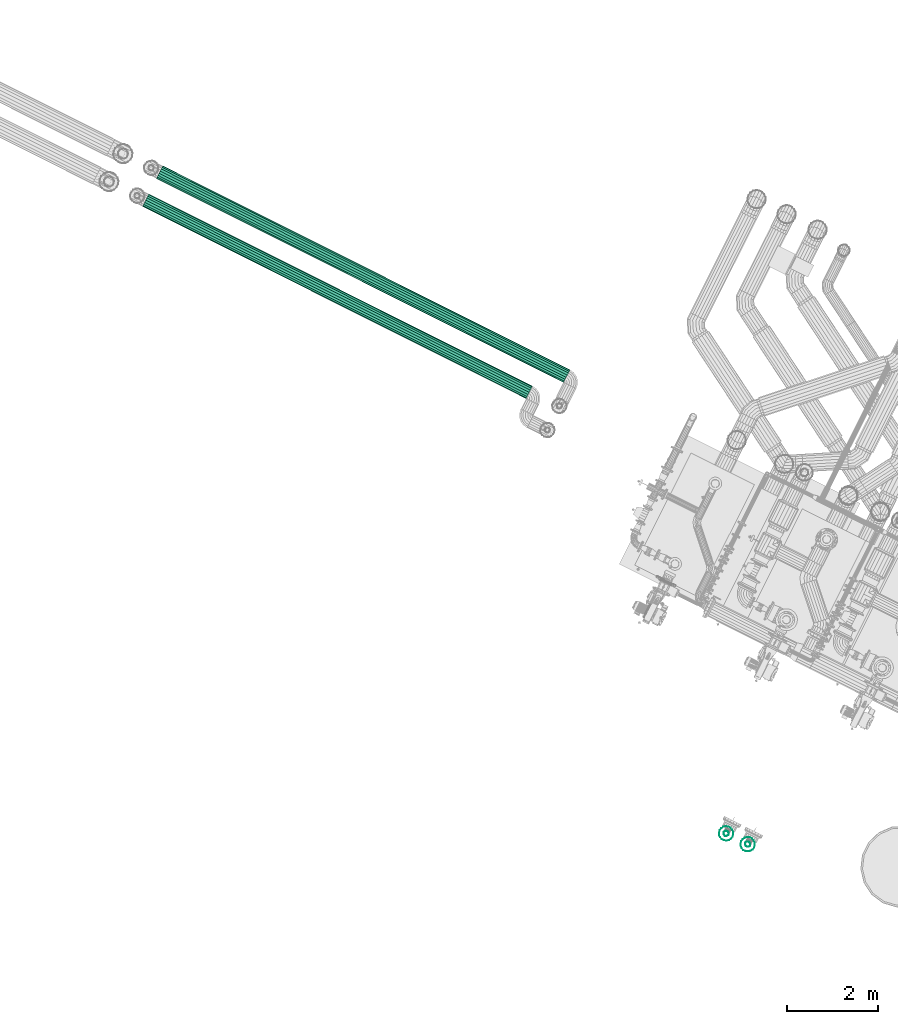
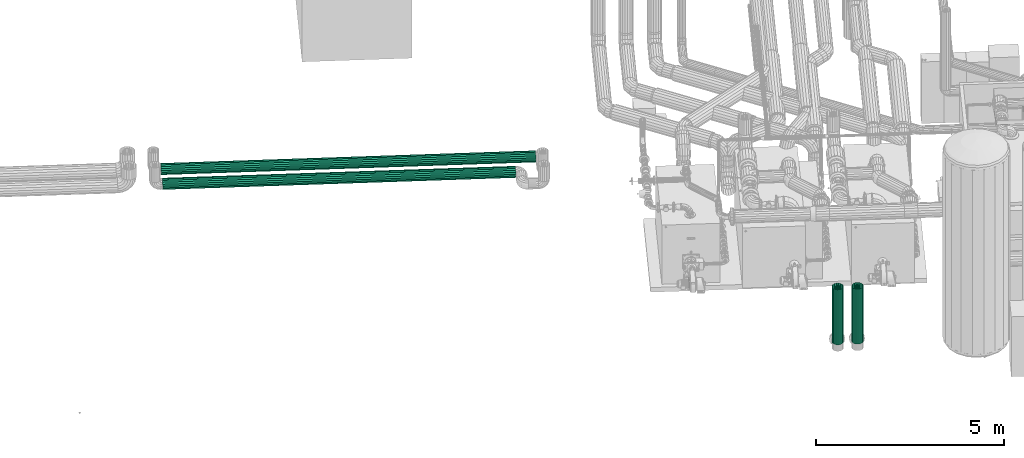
# One storey, part 4 of 206: 4 flow segments.
"""IFC2X3 building model written with IfcOpenShell, lengths in metres."""

from ifc_helpers import new_model, si_unit, derived_unit, direction, frame, origin, place, context, subcontext, project, spatial, face_set, surface_model, source, transform, mapped, material, type_object, type_shapes, element, save


model = new_model("IFC2X3")

# Units and contexts
model_context = context("Model", 3, precision=5.2338327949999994e-05, world=origin(), true_north=direction((0.0, 1.0)))
body_context = subcontext(model_context, "Body", "Model", "MODEL_VIEW")
ifc_project = project(units=[si_unit("LENGTHUNIT", "METRE"), si_unit("AREAUNIT", "SQUARE_METRE"), si_unit("VOLUMEUNIT", "CUBIC_METRE"), si_unit("MASSUNIT", "GRAM", prefix="KILO"), si_unit("PLANEANGLEUNIT", "RADIAN"), derived_unit("THERMALTRANSMITTANCEUNIT", [(si_unit("MASSUNIT", "GRAM", prefix="KILO"), 1), (si_unit("THERMODYNAMICTEMPERATUREUNIT", "KELVIN"), -1), (si_unit("TIMEUNIT", "SECOND"), -3)])], contexts=[model_context])

# Site, building, storey
site_placement = place(None, frame((0.0, 0.0, 0.0), z_axis=(0.0, 0.0, 1.0), x_axis=(0.8939966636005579, -0.4480736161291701, 0.0)))
site = spatial("IfcSite", under=ifc_project, at=site_placement, Name="Default", CompositionType="ELEMENT")
building_placement = place(site_placement, origin())
building = spatial("IfcBuilding", under=site, at=building_placement, CompositionType="ELEMENT")
storey_placement = place(building_placement, origin())
storey = spatial("IfcBuildingStorey", under=building, at=storey_placement, Name="Erdgeschoss", CompositionType="ELEMENT", Elevation=0.0)

# Flow segments
ifc_material_1 = material(Name="IfcSurfaceStyle #1741")
distribution_element_type_1 = type_object("IfcDistributionElementType", Name="Stahlrohr nach DIN 2448 292285:Stahlrohr nach DIN 2448 292285", material=ifc_material_1)
shared_shape_1 = source(origin(), body_context, "Body", "SurfaceModel", [
    surface_model("IfcFaceBasedSurfaceModel", [(17.474232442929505, 7.9550583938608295, 2.3177984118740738), (17.474232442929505, 7.958504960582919, 2.337344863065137), (7.4852324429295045, 7.958504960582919, 2.3373448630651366), (7.4852324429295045, 7.9550583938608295, 2.3177984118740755), (17.474232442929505, 7.968428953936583, 2.354533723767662), (7.4852324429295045, 7.968428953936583, 2.3545337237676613), (17.474232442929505, 7.9836333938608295, 2.3672917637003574), (7.4852324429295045, 7.983633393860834, 2.3672917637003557), (17.474232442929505, 8.002284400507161, 2.374080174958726), (7.4852324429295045, 8.00228440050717, 2.374080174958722), (17.474232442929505, 8.022132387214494, 2.374080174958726), (7.4852324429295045, 8.0221323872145, 2.374080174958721), (17.474232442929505, 8.040783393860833, 2.3672917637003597), (7.4852324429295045, 8.040783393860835, 2.367291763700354), (17.474232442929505, 8.05598783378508, 2.3545337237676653), (7.4852324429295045, 8.055987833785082, 2.3545337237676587), (17.474232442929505, 8.065911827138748, 2.337344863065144), (7.4852324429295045, 8.065911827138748, 2.3373448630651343), (17.474232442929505, 8.069358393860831, 2.3177984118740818), (7.4852324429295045, 8.06935839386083, 2.317798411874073), (17.474232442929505, 8.065911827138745, 2.2982519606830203), (7.4852324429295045, 8.065911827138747, 2.2982519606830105), (17.474232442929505, 8.055987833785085, 2.281063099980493), (7.4852324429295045, 8.055987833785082, 2.2810630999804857), (17.474232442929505, 8.040783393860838, 2.2683050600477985), (7.4852324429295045, 8.040783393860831, 2.2683050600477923), (17.474232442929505, 8.022132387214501, 2.2615166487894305), (7.4852324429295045, 8.022132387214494, 2.261516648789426), (17.474232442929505, 8.002284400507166, 2.26151664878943), (7.4852324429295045, 8.002284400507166, 2.2615166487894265), (17.474232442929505, 7.983633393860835, 2.2683050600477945), (7.4852324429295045, 7.98363339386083, 2.268305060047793), (17.474232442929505, 7.968428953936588, 2.2810630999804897), (7.4852324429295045, 7.968428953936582, 2.281063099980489), (17.474232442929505, 7.958504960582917, 2.2982519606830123), (7.4852324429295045, 7.958504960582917, 2.2982519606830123), (17.474232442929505, 7.855058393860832, 2.317798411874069), (17.474232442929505, 7.864535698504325, 2.371546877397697), (7.4852324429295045, 7.864535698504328, 2.3715468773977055), (7.4852324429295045, 7.855058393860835, 2.317798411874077), (17.474232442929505, 7.89182450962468, 2.41881248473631), (7.4852324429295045, 7.891824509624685, 2.4188124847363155), (17.474232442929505, 7.933633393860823, 2.4538943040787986), (7.4852324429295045, 7.933633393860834, 2.4538943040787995), (17.474232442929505, 7.984919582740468, 2.472560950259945), (7.4852324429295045, 7.984919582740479, 2.472560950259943), (17.474232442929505, 8.039497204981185, 2.4725609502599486), (7.4852324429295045, 8.039497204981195, 2.4725609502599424), (17.474232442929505, 8.090783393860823, 2.453894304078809), (7.4852324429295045, 8.090783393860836, 2.4538943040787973), (17.474232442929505, 8.132592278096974, 2.4188124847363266), (7.4852324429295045, 8.132592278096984, 2.4188124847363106), (17.474232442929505, 8.159881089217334, 2.371546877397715), (7.4852324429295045, 8.159881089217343, 2.3715468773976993), (17.474232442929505, 8.169358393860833, 2.317798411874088), (7.4852324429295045, 8.169358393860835, 2.3177984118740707), (17.474232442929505, 8.159881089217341, 2.264049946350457), (7.4852324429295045, 8.159881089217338, 2.2640499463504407), (17.474232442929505, 8.13259227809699, 2.2167843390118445), (7.4852324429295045, 8.132592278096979, 2.21678433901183), (17.474232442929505, 8.090783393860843, 2.181702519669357), (7.4852324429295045, 8.09078339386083, 2.1817025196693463), (17.474232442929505, 8.0394972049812, 2.1630358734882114), (7.4852324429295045, 8.039497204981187, 2.163035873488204), (17.474232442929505, 7.984919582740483, 2.1630358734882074), (7.4852324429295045, 7.984919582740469, 2.1630358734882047), (17.474232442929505, 7.93363339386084, 2.181702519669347), (7.4852324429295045, 7.933633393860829, 2.1817025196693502), (17.474232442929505, 7.891824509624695, 2.2167843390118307), (7.4852324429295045, 7.891824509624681, 2.216784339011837), (17.474232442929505, 7.864535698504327, 2.2640499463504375), (7.4852324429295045, 7.864535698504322, 2.2640499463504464)], [face_set([[[0, 1, 2, 3]], [[1, 4, 5, 2]], [[4, 6, 7, 5]], [[6, 8, 9, 7]], [[8, 10, 11, 9]], [[10, 12, 13, 11]], [[12, 14, 15, 13]], [[14, 16, 17, 15]], [[16, 18, 19, 17]], [[18, 20, 21, 19]], [[20, 22, 23, 21]], [[22, 24, 25, 23]], [[24, 26, 27, 25]], [[26, 28, 29, 27]], [[28, 30, 31, 29]], [[30, 32, 33, 31]], [[32, 34, 35, 33]], [[34, 0, 3, 35]], [[36, 37, 38, 39]], [[37, 40, 41, 38]], [[40, 42, 43, 41]], [[42, 44, 45, 43]], [[44, 46, 47, 45]], [[46, 48, 49, 47]], [[48, 50, 51, 49]], [[50, 52, 53, 51]], [[52, 54, 55, 53]], [[54, 56, 57, 55]], [[56, 58, 59, 57]], [[58, 60, 61, 59]], [[60, 62, 63, 61]], [[62, 64, 65, 63]], [[64, 66, 67, 65]], [[66, 68, 69, 67]], [[68, 70, 71, 69]], [[70, 36, 39, 71]]])]),
])
type_shapes(distribution_element_type_1, [shared_shape_1])
flow_segment_1_placement = place(storey_placement, origin())
element("IfcFlowSegment", 1, at=flow_segment_1_placement, inside=storey, type_object=distribution_element_type_1, material=ifc_material_1, Name="Stahlrohr nach DIN 2448", ObjectType="Stahlrohr nach DIN 2448", context=body_context, shape_type="MappedRepresentation", body=[
    mapped(shared_shape_1, transform((0.0, 0.0, 0.0), scale=1.0)),
])
ifc_material_2 = material(Name="IfcSurfaceStyle #9317")
distribution_element_type_2 = type_object("IfcDistributionElementType", Name="Stahlrohr nach DIN 2448 292664:Stahlrohr nach DIN 2448 292664", material=ifc_material_2)
shared_shape_2 = source(origin(), body_context, "Body", "SurfaceModel", [
    surface_model("IfcFaceBasedSurfaceModel", [(7.485608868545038, 7.3272083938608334, 2.260648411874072), (7.485608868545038, 7.346754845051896, 2.264094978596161), (16.90060886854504, 7.346754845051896, 2.264094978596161), (16.90060886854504, 7.3272083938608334, 2.260648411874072), (7.485608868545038, 7.36394370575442, 2.2740189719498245), (16.90060886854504, 7.363943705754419, 2.2740189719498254), (7.485608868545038, 7.376701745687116, 2.2892234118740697), (16.90060886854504, 7.3767017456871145, 2.2892234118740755), (7.485608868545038, 7.383490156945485, 2.3078744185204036), (16.90060886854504, 7.38349015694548, 2.3078744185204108), (7.485608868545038, 7.383490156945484, 2.3277224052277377), (16.90060886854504, 7.383490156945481, 2.327722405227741), (7.485608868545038, 7.376701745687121, 2.346373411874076), (16.90060886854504, 7.376701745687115, 2.3463734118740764), (7.485608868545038, 7.3639437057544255, 2.361577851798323), (16.90060886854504, 7.363943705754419, 2.3615778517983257), (7.485608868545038, 7.346754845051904, 2.3715018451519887), (16.90060886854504, 7.346754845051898, 2.371501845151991), (7.485608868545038, 7.327208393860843, 2.374948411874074), (16.90060886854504, 7.327208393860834, 2.374948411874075), (7.485608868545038, 7.307661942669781, 2.3715018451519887), (16.90060886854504, 7.307661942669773, 2.3715018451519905), (7.485608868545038, 7.290473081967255, 2.361577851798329), (16.90060886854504, 7.290473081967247, 2.3615778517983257), (7.485608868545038, 7.2777150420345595, 2.346373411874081), (16.90060886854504, 7.277715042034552, 2.346373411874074), (7.485608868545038, 7.270926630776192, 2.3277224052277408), (16.90060886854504, 7.270926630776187, 2.32772240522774), (7.485608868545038, 7.270926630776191, 2.307874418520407), (16.90060886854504, 7.270926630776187, 2.3078744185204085), (7.485608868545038, 7.277715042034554, 2.2892234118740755), (16.90060886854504, 7.2777150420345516, 2.2892234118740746), (7.485608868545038, 7.29047308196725, 2.2740189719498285), (16.90060886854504, 7.290473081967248, 2.2740189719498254), (7.485608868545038, 7.307661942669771, 2.2640949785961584), (16.90060886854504, 7.30766194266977, 2.2640949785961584), (7.485608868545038, 7.327208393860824, 2.160648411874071), (7.485608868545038, 7.380956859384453, 2.170125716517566), (16.90060886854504, 7.380956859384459, 2.1701257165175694), (16.90060886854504, 7.327208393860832, 2.1606484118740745), (7.485608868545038, 7.428222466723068, 2.1974145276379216), (16.90060886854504, 7.4282224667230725, 2.1974145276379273), (7.485608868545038, 7.463304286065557, 2.2392234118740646), (16.90060886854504, 7.463304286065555, 2.2392234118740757), (7.485608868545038, 7.481970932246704, 2.29050960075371), (16.90060886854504, 7.4819709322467, 2.290509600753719), (7.485608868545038, 7.481970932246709, 2.3450872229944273), (16.90060886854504, 7.4819709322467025, 2.3450872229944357), (7.485608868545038, 7.4633042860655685, 2.3963734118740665), (16.90060886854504, 7.46330428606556, 2.396373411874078), (7.485608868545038, 7.4282224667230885, 2.438182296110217), (16.90060886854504, 7.428222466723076, 2.438182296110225), (7.485608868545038, 7.380956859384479, 2.4654711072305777), (16.90060886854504, 7.380956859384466, 2.4654711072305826), (7.485608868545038, 7.327208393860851, 2.474948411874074), (16.90060886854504, 7.327208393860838, 2.4749484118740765), (7.485608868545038, 7.27345992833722, 2.4654711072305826), (16.90060886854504, 7.273459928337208, 2.4654711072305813), (7.485608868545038, 7.226194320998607, 2.4381822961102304), (16.90060886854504, 7.226194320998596, 2.438182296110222), (7.485608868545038, 7.19111250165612, 2.3963734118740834), (16.90060886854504, 7.19111250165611, 2.396373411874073), (7.485608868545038, 7.1724458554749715, 2.345087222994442), (16.90060886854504, 7.172445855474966, 2.3450872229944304), (7.485608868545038, 7.172445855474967, 2.2905096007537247), (16.90060886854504, 7.172445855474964, 2.2905096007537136), (7.485608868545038, 7.191112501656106, 2.2392234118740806), (16.90060886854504, 7.191112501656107, 2.2392234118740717), (7.485608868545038, 7.226194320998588, 2.1974145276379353), (16.90060886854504, 7.226194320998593, 2.197414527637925), (7.485608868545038, 7.273459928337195, 2.170125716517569), (16.90060886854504, 7.273459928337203, 2.170125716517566)], [face_set([[[0, 1, 2, 3]], [[1, 4, 5, 2]], [[4, 6, 7, 5]], [[6, 8, 9, 7]], [[8, 10, 11, 9]], [[10, 12, 13, 11]], [[12, 14, 15, 13]], [[14, 16, 17, 15]], [[16, 18, 19, 17]], [[18, 20, 21, 19]], [[20, 22, 23, 21]], [[22, 24, 25, 23]], [[24, 26, 27, 25]], [[26, 28, 29, 27]], [[28, 30, 31, 29]], [[30, 32, 33, 31]], [[32, 34, 35, 33]], [[34, 0, 3, 35]], [[36, 37, 38, 39]], [[37, 40, 41, 38]], [[40, 42, 43, 41]], [[42, 44, 45, 43]], [[44, 46, 47, 45]], [[46, 48, 49, 47]], [[48, 50, 51, 49]], [[50, 52, 53, 51]], [[52, 54, 55, 53]], [[54, 56, 57, 55]], [[56, 58, 59, 57]], [[58, 60, 61, 59]], [[60, 62, 63, 61]], [[62, 64, 65, 63]], [[64, 66, 67, 65]], [[66, 68, 69, 67]], [[68, 70, 71, 69]], [[70, 36, 39, 71]]])]),
])
type_shapes(distribution_element_type_2, [shared_shape_2])
flow_segment_2_placement = place(storey_placement, origin())
element("IfcFlowSegment", 2, at=flow_segment_2_placement, inside=storey, type_object=distribution_element_type_2, material=ifc_material_2, Name="Stahlrohr nach DIN 2448", ObjectType="Stahlrohr nach DIN 2448", context=body_context, shape_type="MappedRepresentation", body=[
    mapped(shared_shape_2, transform((0.0, 0.0, 0.0), scale=1.0)),
])
distribution_element_type_3 = type_object("IfcDistributionElementType", Name="Stahlrohr nach DIN 2448 305057:Stahlrohr nach DIN 2448 305057", material=ifc_material_2)
shared_shape_3 = source(origin(), body_context, "Body", "SurfaceModel", [
    surface_model("IfcFaceBasedSurfaceModel", [(25.038549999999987, 0.612299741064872, 1.1594106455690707), (25.041996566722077, 0.5927532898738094, 1.1594106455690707), (25.041996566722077, 0.5927532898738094, 2.95), (25.038549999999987, 0.6122997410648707, 2.95), (25.051920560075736, 0.5755644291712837, 1.1594106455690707), (25.051920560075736, 0.5755644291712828, 2.95), (25.067124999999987, 0.5628063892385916, 1.1594106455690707), (25.067124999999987, 0.5628063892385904, 2.95), (25.085776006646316, 0.5560179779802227, 1.1594106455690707), (25.08577600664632, 0.5560179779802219, 2.95), (25.105623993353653, 0.5560179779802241, 1.1594106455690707), (25.105623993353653, 0.5560179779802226, 2.95), (25.12427499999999, 0.5628063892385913, 1.1594106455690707), (25.124274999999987, 0.5628063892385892, 2.95), (25.139479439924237, 0.5755644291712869, 1.1594106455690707), (25.13947943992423, 0.5755644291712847, 2.95), (25.1494034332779, 0.5927532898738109, 1.1594106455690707), (25.1494034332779, 0.5927532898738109, 2.95), (25.152849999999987, 0.6122997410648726, 1.1594106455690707), (25.152849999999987, 0.6122997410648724, 2.95), (25.1494034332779, 0.631846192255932, 1.1594106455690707), (25.1494034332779, 0.6318461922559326, 2.95), (25.13947943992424, 0.6490350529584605, 1.1594106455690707), (25.13947943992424, 0.6490350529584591, 2.95), (25.12427499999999, 0.6617930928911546, 1.1594106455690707), (25.124274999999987, 0.6617930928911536, 2.95), (25.105623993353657, 0.6685815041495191, 1.1594106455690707), (25.105623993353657, 0.6685815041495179, 2.95), (25.08577600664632, 0.6685815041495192, 1.1594106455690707), (25.085776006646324, 0.668581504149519, 2.95), (25.06712499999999, 0.6617930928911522, 1.1594106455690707), (25.06712499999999, 0.661793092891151, 2.95), (25.051920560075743, 0.6490350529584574, 1.1594106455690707), (25.051920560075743, 0.6490350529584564, 2.95), (25.041996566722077, 0.631846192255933, 1.1594106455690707), (25.04199656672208, 0.6318461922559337, 2.95), (24.93854999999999, 0.6122997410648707, 1.1594106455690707), (24.94802730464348, 0.5585512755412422, 1.1594106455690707), (24.94802730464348, 0.5585512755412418, 2.95), (24.93854999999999, 0.6122997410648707, 2.95), (24.975316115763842, 0.5112856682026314, 1.1594106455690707), (24.97531611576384, 0.5112856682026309, 2.95), (25.017124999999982, 0.4762038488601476, 1.1594106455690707), (25.017124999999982, 0.4762038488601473, 2.95), (25.06841118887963, 0.45753720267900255, 1.1594106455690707), (25.06841118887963, 0.45753720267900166, 2.95), (25.122988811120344, 0.4575372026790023, 1.1594106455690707), (25.12298881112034, 0.45753720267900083, 2.95), (25.174274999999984, 0.47620384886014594, 1.1594106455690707), (25.174274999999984, 0.47620384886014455, 2.95), (25.216083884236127, 0.5112856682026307, 1.1594106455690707), (25.216083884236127, 0.5112856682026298, 2.95), (25.243372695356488, 0.5585512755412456, 1.1594106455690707), (25.243372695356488, 0.5585512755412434, 2.95), (25.25284999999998, 0.6122997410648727, 1.1594106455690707), (25.25284999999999, 0.6122997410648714, 2.95), (25.243372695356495, 0.6660482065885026, 1.1594106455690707), (25.2433726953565, 0.6660482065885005, 2.95), (25.216083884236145, 0.7133138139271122, 1.1594106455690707), (25.216083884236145, 0.7133138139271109, 2.95), (25.174274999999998, 0.7483956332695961, 1.1594106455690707), (25.174274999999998, 0.7483956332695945, 2.95), (25.122988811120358, 0.7670622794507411, 1.1594106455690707), (25.122988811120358, 0.7670622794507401, 2.95), (25.068411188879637, 0.7670622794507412, 1.1594106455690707), (25.068411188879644, 0.7670622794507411, 2.95), (25.017124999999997, 0.7483956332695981, 1.1594106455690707), (25.017124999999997, 0.7483956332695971, 2.95), (24.97531611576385, 0.7133138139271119, 1.1594106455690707), (24.975316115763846, 0.7133138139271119, 2.95), (24.94802730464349, 0.6660482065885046, 1.1594106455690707), (24.94802730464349, 0.6660482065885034, 2.95)], [face_set([[[0, 1, 2, 3]], [[1, 4, 5, 2]], [[4, 6, 7, 5]], [[6, 8, 9, 7]], [[8, 10, 11, 9]], [[10, 12, 13, 11]], [[12, 14, 15, 13]], [[14, 16, 17, 15]], [[16, 18, 19, 17]], [[18, 20, 21, 19]], [[20, 22, 23, 21]], [[22, 24, 25, 23]], [[24, 26, 27, 25]], [[26, 28, 29, 27]], [[28, 30, 31, 29]], [[30, 32, 33, 31]], [[32, 34, 35, 33]], [[34, 0, 3, 35]], [[36, 37, 38, 39]], [[37, 40, 41, 38]], [[40, 42, 43, 41]], [[42, 44, 45, 43]], [[44, 46, 47, 45]], [[46, 48, 49, 47]], [[48, 50, 51, 49]], [[50, 52, 53, 51]], [[52, 54, 55, 53]], [[54, 56, 57, 55]], [[56, 58, 59, 57]], [[58, 60, 61, 59]], [[60, 62, 63, 61]], [[62, 64, 65, 63]], [[64, 66, 67, 65]], [[66, 68, 69, 67]], [[68, 70, 71, 69]], [[70, 36, 39, 71]]])]),
])
type_shapes(distribution_element_type_3, [shared_shape_3])
flow_segment_3_placement = place(storey_placement, origin())
element("IfcFlowSegment", 3, at=flow_segment_3_placement, inside=storey, type_object=distribution_element_type_3, material=ifc_material_2, Name="Stahlrohr nach DIN 2448", ObjectType="Stahlrohr nach DIN 2448", context=body_context, shape_type="MappedRepresentation", body=[
    mapped(shared_shape_3, transform((0.0, 0.0, 0.0), scale=1.0)),
])
distribution_element_type_4 = type_object("IfcDistributionElementType", Name="Stahlrohr nach DIN 2448 305361:Stahlrohr nach DIN 2448 305361", material=ifc_material_1)
shared_shape_4 = source(origin(), body_context, "Body", "SurfaceModel", [
    surface_model("IfcFaceBasedSurfaceModel", [(25.567149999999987, 0.6122997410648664, 1.1594106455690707), (25.57059656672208, 0.592753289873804, 1.1594106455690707), (25.57059656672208, 0.592753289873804, 2.95), (25.567149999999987, 0.6122997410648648, 2.95), (25.580520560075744, 0.5755644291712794, 1.1594106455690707), (25.580520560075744, 0.5755644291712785, 2.95), (25.595724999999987, 0.5628063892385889, 1.1594106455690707), (25.595724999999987, 0.5628063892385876, 2.95), (25.61437600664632, 0.5560179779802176, 1.1594106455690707), (25.614376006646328, 0.5560179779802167, 2.95), (25.634223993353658, 0.5560179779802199, 1.1594106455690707), (25.634223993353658, 0.5560179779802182, 2.95), (25.652874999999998, 0.562806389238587, 1.1594106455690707), (25.65287499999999, 0.5628063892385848, 2.95), (25.66807943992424, 0.5755644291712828, 1.1594106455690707), (25.668079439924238, 0.5755644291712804, 2.95), (25.678003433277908, 0.5927532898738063, 1.1594106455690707), (25.678003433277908, 0.5927532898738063, 2.95), (25.68144999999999, 0.612299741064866, 1.1594106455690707), (25.68144999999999, 0.6122997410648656, 2.95), (25.678003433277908, 0.6318461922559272, 1.1594106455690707), (25.678003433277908, 0.631846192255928, 2.95), (25.668079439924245, 0.6490350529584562, 1.1594106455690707), (25.668079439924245, 0.6490350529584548, 2.95), (25.652874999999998, 0.6617930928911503, 1.1594106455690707), (25.65287499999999, 0.6617930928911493, 2.95), (25.634223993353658, 0.6685815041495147, 1.1594106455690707), (25.63422399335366, 0.6685815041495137, 2.95), (25.614376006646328, 0.6685815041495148, 1.1594106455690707), (25.61437600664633, 0.6685815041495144, 2.95), (25.595724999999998, 0.6617930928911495, 1.1594106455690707), (25.595724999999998, 0.6617930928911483, 2.95), (25.580520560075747, 0.6490350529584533, 1.1594106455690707), (25.580520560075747, 0.6490350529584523, 2.95), (25.57059656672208, 0.6318461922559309, 1.1594106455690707), (25.57059656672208, 0.6318461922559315, 2.95), (25.467149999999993, 0.6122997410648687, 1.1594106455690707), (25.476627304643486, 0.55855127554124, 1.1594106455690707), (25.476627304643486, 0.5585512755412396, 2.95), (25.467149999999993, 0.6122997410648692, 2.95), (25.503916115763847, 0.5112856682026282, 1.1594106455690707), (25.503916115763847, 0.5112856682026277, 2.95), (25.545724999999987, 0.47620384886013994, 1.1594106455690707), (25.545724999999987, 0.4762038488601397, 2.95), (25.59701118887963, 0.4575372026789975, 1.1594106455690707), (25.59701118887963, 0.45753720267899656, 2.95), (25.651588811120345, 0.45753720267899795, 1.1594106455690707), (25.651588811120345, 0.4575372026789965, 2.95), (25.702874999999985, 0.4762038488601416, 1.1594106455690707), (25.702874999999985, 0.4762038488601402, 2.95), (25.74468388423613, 0.5112856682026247, 1.1594106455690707), (25.74468388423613, 0.5112856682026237, 2.95), (25.771972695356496, 0.558551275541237, 1.1594106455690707), (25.771972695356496, 0.5585512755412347, 2.95), (25.781449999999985, 0.6122997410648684, 1.1594106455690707), (25.781449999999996, 0.6122997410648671, 2.95), (25.7719726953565, 0.6660482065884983, 1.1594106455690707), (25.771972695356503, 0.6660482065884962, 2.95), (25.744683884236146, 0.71331381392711, 1.1594106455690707), (25.744683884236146, 0.7133138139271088, 2.95), (25.702875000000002, 0.7483956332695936, 1.1594106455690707), (25.702875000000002, 0.7483956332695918, 2.95), (25.651588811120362, 0.7670622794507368, 1.1594106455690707), (25.651588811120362, 0.7670622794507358, 2.95), (25.597011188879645, 0.7670622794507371, 1.1594106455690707), (25.597011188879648, 0.7670622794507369, 2.95), (25.545725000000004, 0.748395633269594, 1.1594106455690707), (25.545725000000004, 0.748395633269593, 2.95), (25.50391611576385, 0.7133138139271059, 1.1594106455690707), (25.503916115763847, 0.7133138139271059, 2.95), (25.47662730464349, 0.6660482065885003, 1.1594106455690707), (25.47662730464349, 0.6660482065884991, 2.95)], [face_set([[[0, 1, 2, 3]], [[1, 4, 5, 2]], [[4, 6, 7, 5]], [[6, 8, 9, 7]], [[8, 10, 11, 9]], [[10, 12, 13, 11]], [[12, 14, 15, 13]], [[14, 16, 17, 15]], [[16, 18, 19, 17]], [[18, 20, 21, 19]], [[20, 22, 23, 21]], [[22, 24, 25, 23]], [[24, 26, 27, 25]], [[26, 28, 29, 27]], [[28, 30, 31, 29]], [[30, 32, 33, 31]], [[32, 34, 35, 33]], [[34, 0, 3, 35]], [[36, 37, 38, 39]], [[37, 40, 41, 38]], [[40, 42, 43, 41]], [[42, 44, 45, 43]], [[44, 46, 47, 45]], [[46, 48, 49, 47]], [[48, 50, 51, 49]], [[50, 52, 53, 51]], [[52, 54, 55, 53]], [[54, 56, 57, 55]], [[56, 58, 59, 57]], [[58, 60, 61, 59]], [[60, 62, 63, 61]], [[62, 64, 65, 63]], [[64, 66, 67, 65]], [[66, 68, 69, 67]], [[68, 70, 71, 69]], [[70, 36, 39, 71]]])]),
])
type_shapes(distribution_element_type_4, [shared_shape_4])
flow_segment_4_placement = place(storey_placement, origin())
element("IfcFlowSegment", 4, at=flow_segment_4_placement, inside=storey, type_object=distribution_element_type_4, material=ifc_material_1, Name="Stahlrohr nach DIN 2448", ObjectType="Stahlrohr nach DIN 2448", context=body_context, shape_type="MappedRepresentation", body=[
    mapped(shared_shape_4, transform((0.0, 0.0, 0.0), scale=1.0)),
])

save(model, "model.ifc")
